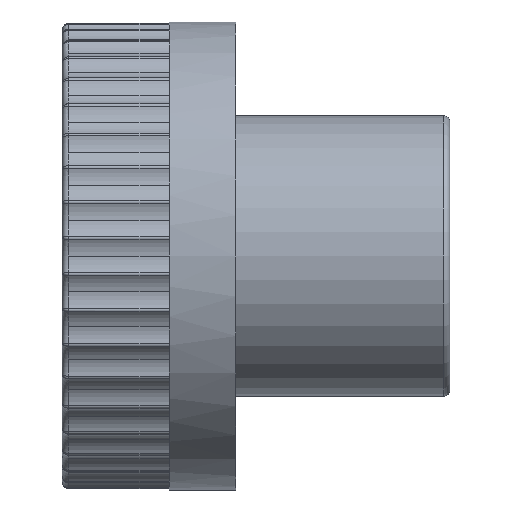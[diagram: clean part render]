
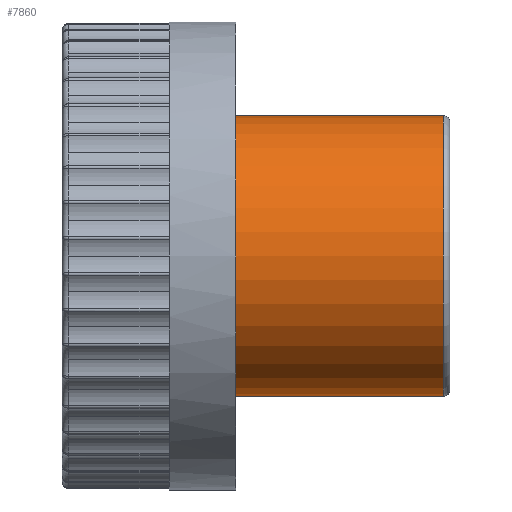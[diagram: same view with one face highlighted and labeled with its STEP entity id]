
A CAD part, left-side view. The second image highlights one B-rep face of the part: STEP entity #7860.
In plain terms, the highlighted cylindrical face has radius 10.5 mm (diameter 21 mm), a partial arc.
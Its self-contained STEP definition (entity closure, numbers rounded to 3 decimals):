
#369 = CARTESIAN_POINT ( 'NONE',  ( 0., 0.5, 10.5 ) ) ;
#817 = VECTOR ( 'NONE', #6006, 1000. ) ;
#1513 = EDGE_CURVE ( 'NONE', #5065, #3514, #2835, .T. ) ;
#1520 = ORIENTED_EDGE ( 'NONE', *, *, #1513, .T. ) ;
#1561 = DIRECTION ( 'NONE',  ( 0., 1., 0. ) ) ;
#1946 = EDGE_CURVE ( 'NONE', #2970, #6685, #3130, .T. ) ;
#2047 = CARTESIAN_POINT ( 'NONE',  ( 0., 0., 0. ) ) ;
#2139 = CARTESIAN_POINT ( 'NONE',  ( 0., 0., -10.5 ) ) ;
#2147 = DIRECTION ( 'NONE',  ( 0., -1., 0. ) ) ;
#2835 = CIRCLE ( 'NONE', #4879, 10.5 ) ;
#2870 = DIRECTION ( 'NONE',  ( 0., -1., 0. ) ) ;
#2886 = LINE ( 'NONE', #6775, #6339 ) ;
#2970 = VERTEX_POINT ( 'NONE', #3474 ) ;
#3029 = ORIENTED_EDGE ( 'NONE', *, *, #5823, .F. ) ;
#3130 = CIRCLE ( 'NONE', #4694, 10.5 ) ;
#3299 = DIRECTION ( 'NONE',  ( 0., -1., 0. ) ) ;
#3474 = CARTESIAN_POINT ( 'NONE',  ( 0., 0.5, -10.5 ) ) ;
#3514 = VERTEX_POINT ( 'NONE', #4702 ) ;
#4694 = AXIS2_PLACEMENT_3D ( 'NONE', #5408, #1561, #6084 ) ;
#4702 = CARTESIAN_POINT ( 'NONE',  ( 0., 21.6, -10.5 ) ) ;
#4879 = AXIS2_PLACEMENT_3D ( 'NONE', #6013, #2147, #6688 ) ;
#4942 = ORIENTED_EDGE ( 'NONE', *, *, #7877, .T. ) ;
#5065 = VERTEX_POINT ( 'NONE', #6077 ) ;
#5408 = CARTESIAN_POINT ( 'NONE',  ( 0., 0.5, 0. ) ) ;
#5654 = AXIS2_PLACEMENT_3D ( 'NONE', #2047, #3299, #7912 ) ;
#5823 = EDGE_CURVE ( 'NONE', #5065, #6685, #2886, .T. ) ;
#6006 = DIRECTION ( 'NONE',  ( 0., -1., 0. ) ) ;
#6013 = CARTESIAN_POINT ( 'NONE',  ( 0., 21.6, 0. ) ) ;
#6077 = CARTESIAN_POINT ( 'NONE',  ( 0., 21.6, 10.5 ) ) ;
#6084 = DIRECTION ( 'NONE',  ( 0., 0., -1. ) ) ;
#6163 = LINE ( 'NONE', #2139, #817 ) ;
#6339 = VECTOR ( 'NONE', #2870, 1000. ) ;
#6685 = VERTEX_POINT ( 'NONE', #369 ) ;
#6688 = DIRECTION ( 'NONE',  ( 0., 0., -1. ) ) ;
#6694 = ORIENTED_EDGE ( 'NONE', *, *, #1946, .T. ) ;
#6775 = CARTESIAN_POINT ( 'NONE',  ( 0., 0., 10.5 ) ) ;
#7198 = EDGE_LOOP ( 'NONE', ( #3029, #1520, #4942, #6694 ) ) ;
#7530 = CYLINDRICAL_SURFACE ( 'NONE', #5654, 10.5 ) ;
#7724 = FACE_OUTER_BOUND ( 'NONE', #7198, .T. ) ;
#7860 = ADVANCED_FACE ( 'NONE', ( #7724 ), #7530, .T. ) ;
#7877 = EDGE_CURVE ( 'NONE', #3514, #2970, #6163, .T. ) ;
#7912 = DIRECTION ( 'NONE',  ( 0., 0., -1. ) ) ;
